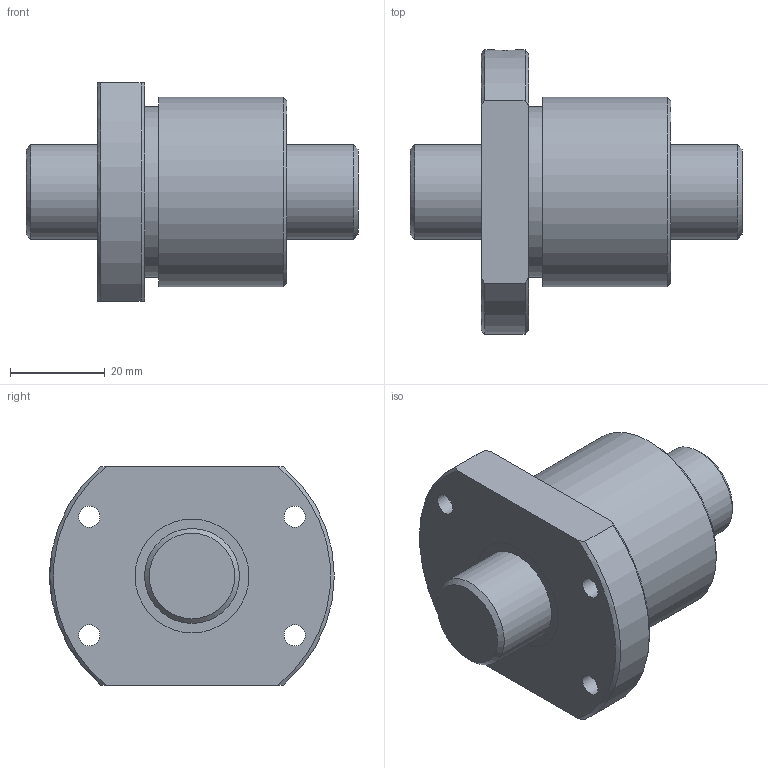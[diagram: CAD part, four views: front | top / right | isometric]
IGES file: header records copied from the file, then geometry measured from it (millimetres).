
Start section: Data from Parasolid IGES Translator 26.0.171, Copyright(c) 2006 Siemens PLM Software. All Rights Reserved.
Global section: file name: BTK2005V-2.6ZZ+70LC7T_000.igs; native system: By Siemens PLM Incorporated; preprocessor: XPlus GENERIC/IGES 26.0.171; author: Noname; organization: Noname; date: 20250116.075557; units: millimetre
Bounding box: 70 x 60 x 46 mm (x, y, z)
Surface area: 18333.5 mm2 (no closed solid volume)
Topology: 0 solids, 0 shells, 31 faces, 142 edges, 122 vertices
Faces by surface type: revolution 21, extrusion 10
